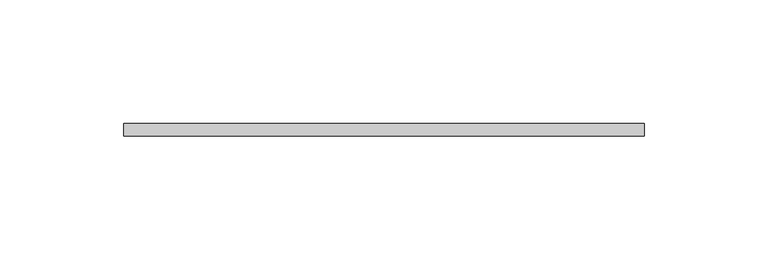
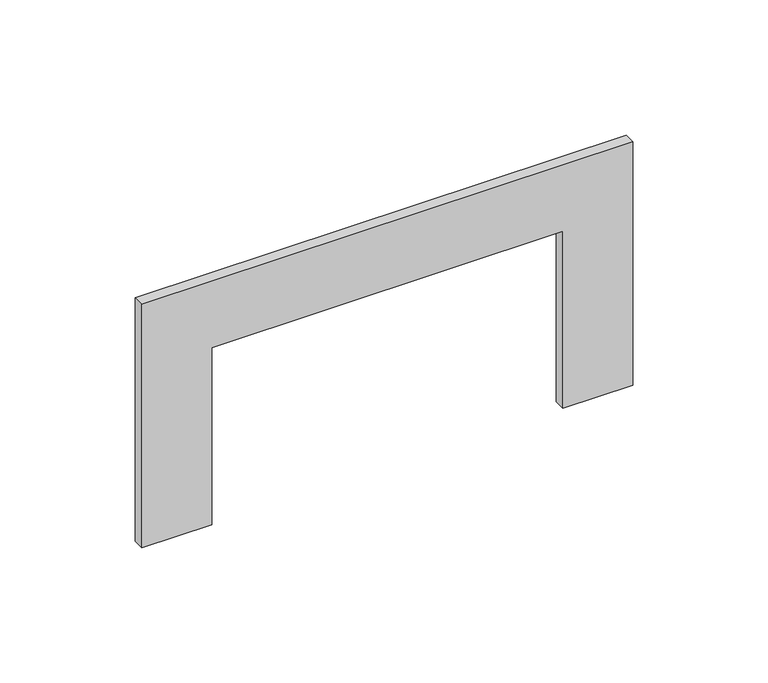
"""IFC4 building model written with IfcOpenShell, lengths in millimetres: proxy geometry, КНС_РамкаДляВводаRQM_ILC_DKC : TA-GN 60x...."""

from ifc_helpers import new_model, si_unit, frame, origin, place, context, project, spatial, polyline, outline, extrude, source, transform, mapped, element, save


def electrical_fixtures_26f62f1e(model_context):
    return source(origin(), model_context, "Body", "SweptSolid", [
        extrude(outline(polyline([(110.0, -105.0), (0.0, -105.0), (0.0, -75.0), (80.0, -75.0), (80.0, 75.0), (0.0, 75.0), (0.0, 105.0), (110.0, 105.0), (110.0, -105.0)])), frame((0.0, -5.0, 0.0), z_axis=(0.0, 1.0, 0.0), x_axis=(0.0, 0.0, 1.0)), (0.0, 0.0, 1.0), 5.0),
    ])


if __name__ == "__main__":
    model = new_model("IFC4")
    model_context = context("Model", 3, world=origin())
    ifc_project = project(units=[si_unit("LENGTHUNIT", "METRE", prefix="MILLI")], contexts=[model_context])
    site = spatial("IfcSite", under=ifc_project)
    building = spatial("IfcBuilding", under=site)
    placement = place(None, origin())
    electrical_fixtures_shape = electrical_fixtures_26f62f1e(model_context)
    element("IfcBuildingElementProxy", 1, Name="КНС_РамкаДляВводаRQM_ILC_DKC : TA-GN 60x...", ObjectType="КНС_РамкаДляВводаRQM_ILC_DKC : TA-GN 60x...", at=placement, inside=building, context=model_context, shape_type="MappedRepresentation", body=[
        mapped(electrical_fixtures_shape, transform((0.0, 0.0, 0.0), x_axis=(1.0, 0.0, 0.0), y_axis=(0.0, 1.0, 0.0), z_axis=(0.0, 0.0, 1.0))),
    ])
    save(model, "model.ifc")
